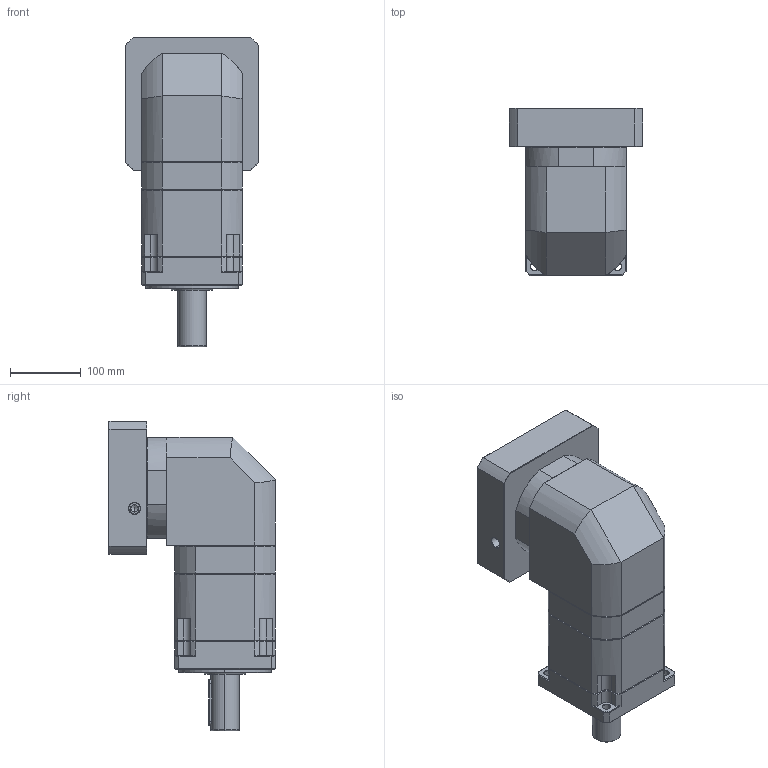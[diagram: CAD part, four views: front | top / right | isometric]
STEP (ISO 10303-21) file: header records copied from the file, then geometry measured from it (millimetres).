
FILE_DESCRIPTION (( 'STEP AP214' ), '1' );
FILE_NAME ('ZBR142A-D40-L3-P2-38-180-215-M12.step', '2023-09-02T07:14:18', ( '' ), ( '' ), 'SwSTEP 2.0', 'SolidWorks 2016', '' );
FILE_SCHEMA (( 'AUTOMOTIVE_DESIGN' ));
Length unit declared in the file: millimetre
Products named in the file (1): ZBR142A-D40-L3-P2-38-180-215-M12
Bounding box: 188 x 235 x 436.7 mm (x, y, z)
Volume: 7642410.1 mm3; surface area: 480949.1 mm2
Topology: 6 solids, 6 shells, 2314 faces, 6063 edges, 3856 vertices
Faces by surface type: plane 1132, cylinder 418, bspline 410, cone 332, torus 22
Entity records: 129013 total; most frequent: CARTESIAN_POINT 50033, ORIENTED_EDGE 12066, DIRECTION 9520, EDGE_CURVE 6033, LINE 3910, VECTOR 3910, VERTEX_POINT 3856, AXIS2_PLACEMENT_3D 2805
